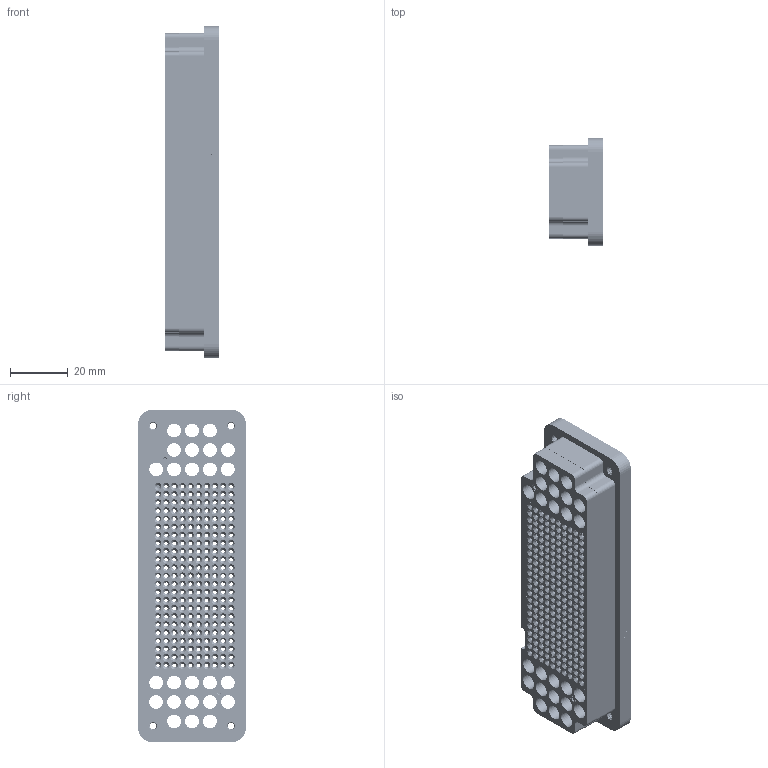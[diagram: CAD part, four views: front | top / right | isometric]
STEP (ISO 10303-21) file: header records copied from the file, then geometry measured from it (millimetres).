
FILE_DESCRIPTION((''),'2;1');
FILE_NAME('C:\Users\davecooper\Desktop\30125230-01-RevE-CU.stp','2013-01-09T14:50:06',('davecooper'),(''),'Autodesk Inventor 2011','Autodesk Inventor 2011','');
FILE_SCHEMA(('CONFIG_CONTROL_DESIGN'));
Length unit declared in the file: inch
Products named in the file (1): 30125230-01-CU
Bounding box: 19.05 x 37.27 x 115.06 mm (x, y, z)
Surface area: 54330.5 mm2 (no closed solid volume)
Topology: 0 solids, 17 shells, 4809 faces, 11729 edges, 7749 vertices
Faces by surface type: plane 1908, bspline 1342, cylinder 1090, cone 469
Full cylindrical faces by diameter (mm): 0.005 x4, 0.025 x1, 0.914 x1, 1.191 x230, 1.295 x1, 1.524 x4, 1.575 x2, 1.6 x1, 1.778 x2, 1.829 x230, 1.93 x230, 2.032 x4, 2.375 x2, 2.438 x232, 2.54 x6, 2.845 x4, 4.75 x25, 5.334 x50, 5.715 x25
Entity records: 148258 total; most frequent: CARTESIAN_POINT 42568, ORIENTED_EDGE 19884, DIRECTION 16858, EDGE_CURVE 9942, EDGE_LOOP 8169, VERTEX_POINT 7485, AXIS2_PLACEMENT_3D 6146, FACE_OUTER_BOUND 4809
